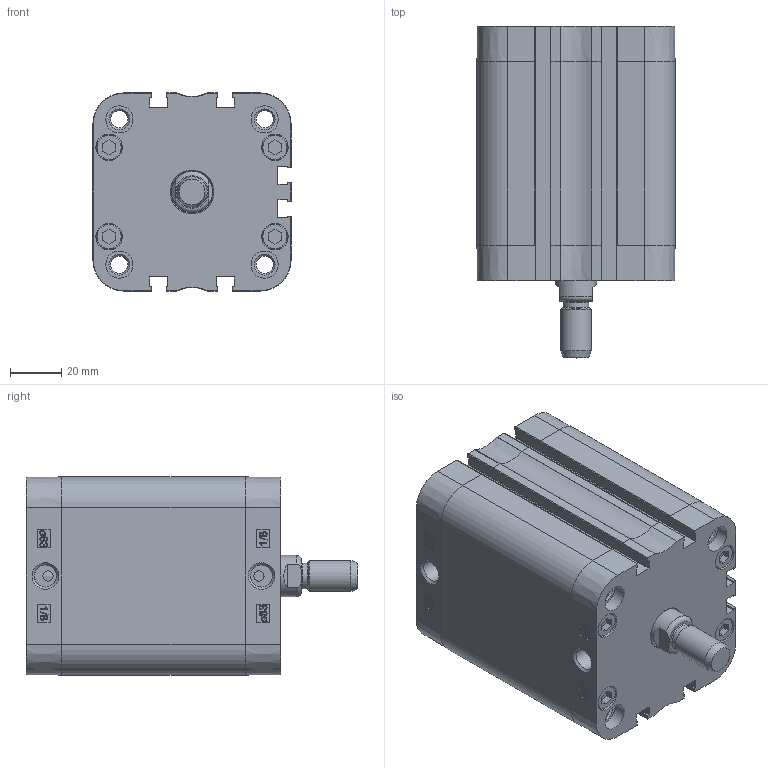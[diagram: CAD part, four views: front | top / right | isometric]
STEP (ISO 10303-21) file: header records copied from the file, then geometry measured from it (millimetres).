
FILE_DESCRIPTION((''),'2;1');
FILE_NAME('T:\Archivio Inventor\- CATALOGHI 2012\SERIE P - NUOVA\PDM\PDM063\PDM063.---.GS.M\PDM063.050.GS.M.stp','2013-02-04T09:26:52',('Administrator'),(''),'Autodesk Inventor 2012','Autodesk Inventor 2012','');
FILE_SCHEMA(('CONFIG_CONTROL_DESIGN'));
Length unit declared in the file: millimetre
Products named in the file (1): PDM063.050.GS.M
Bounding box: 77 x 129 x 77 mm (x, y, z)
Volume: 266287.9 mm3; surface area: 101708 mm2
Topology: 1 solids, 5 shells, 824 faces, 1993 edges, 1252 vertices
Faces by surface type: plane 346, bspline 218, cylinder 142, torus 55, cone 45, sphere 18
Full cylindrical faces by diameter (mm): 4 x2, 6.3 x4, 6.647 x8, 8.047 x4, 8.566 x2, 9.8 x8, 10 x1, 10.3 x8, 10.5 x8, 12 x2, 16 x1, 16.5 x1, 63 x1, 65.4 x1, 65.6 x1
Entity records: 27354 total; most frequent: CARTESIAN_POINT 9106, ORIENTED_EDGE 3744, DIRECTION 3031, EDGE_CURVE 1872, VERTEX_POINT 1231, AXIS2_PLACEMENT_3D 1026, EDGE_LOOP 1003, VECTOR 979
